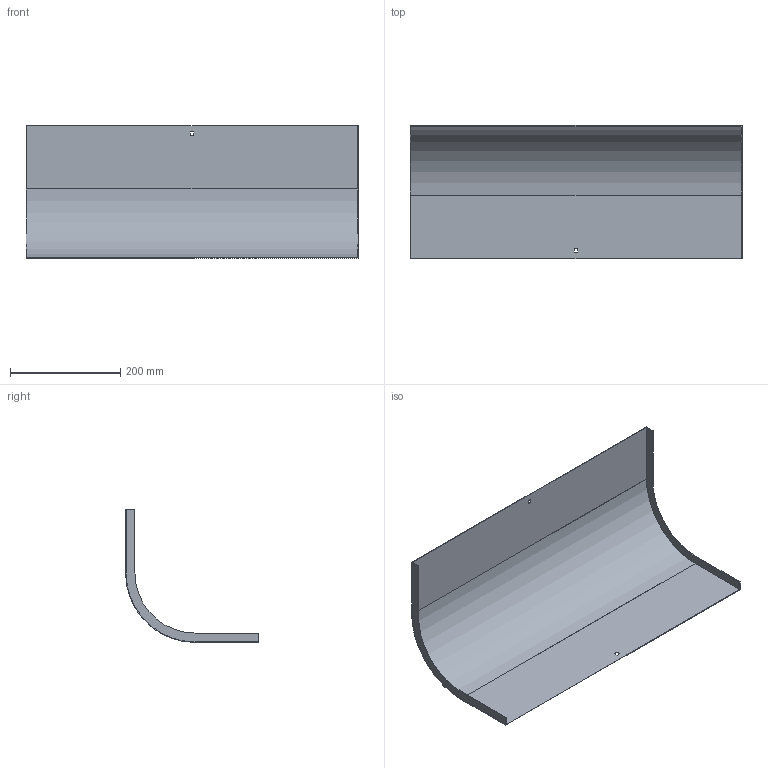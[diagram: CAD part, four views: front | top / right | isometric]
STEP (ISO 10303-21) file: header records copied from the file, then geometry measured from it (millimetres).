
FILE_DESCRIPTION (( 'STEP AP214' ), '1' );
FILE_NAME ('OD9_607.step', '2025-07-16T09:13:54', ( '' ), ( '' ), 'SwSTEP 2.0', 'SolidWorks 2023', '' );
FILE_SCHEMA (( 'AUTOMOTIVE_DESIGN' ));
Length unit declared in the file: millimetre
Products named in the file (1): OD9_607
Bounding box: 602 x 241 x 241 mm (x, y, z)
Volume: 270292.3 mm3; surface area: 542708.6 mm2
Topology: 1 solids, 1 shells, 26 faces, 72 edges, 48 vertices
Faces by surface type: plane 22, cylinder 4
Entity records: 855 total; most frequent: CARTESIAN_POINT 147, ORIENTED_EDGE 144, DIRECTION 134, EDGE_CURVE 72, VECTOR 64, LINE 64, VERTEX_POINT 48, AXIS2_PLACEMENT_3D 35
